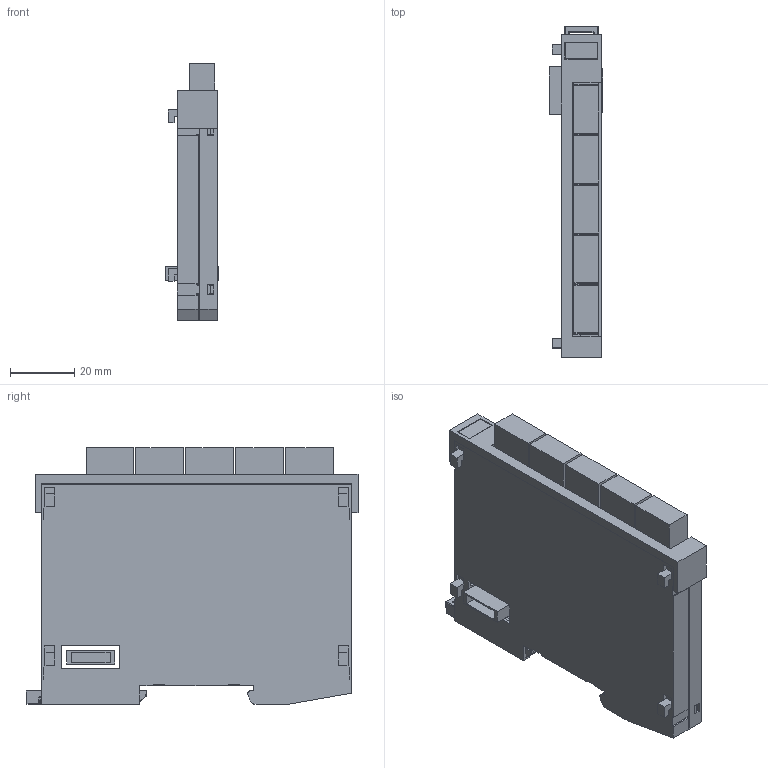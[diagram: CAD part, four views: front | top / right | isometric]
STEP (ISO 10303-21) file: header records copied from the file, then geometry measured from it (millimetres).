
FILE_DESCRIPTION (( 'STEP AP214' ), '1' );
FILE_NAME ('DI202.STEP', '2016-01-22T06:44:01', ( 'SIGMATEK GmbH & Co KG' ), ( 'SIGMATEK GmbH & Co KG' ), 'SwSTEP 2.0', 'SolidWorks 2015', '' );
FILE_SCHEMA (( 'AUTOMOTIVE_DESIGN' ));
Length unit declared in the file: millimetre
Products named in the file (11): LP_DI202; Dummy_4110262104 4pol.Federkraftstecker f.2reih 1952283; Dummy_4110251205 4pol.Minicombicon-Grundgehäuse RM3,5 1937512; Dummy_4080225346 Erni Stift; Dummy_4080225345 Erni Buchse; S-Dias Rasthaken 20130313; Schieber_f Suport; S-Dias Schale rechts_f Suport; S-Dias Schale links_f Suport; 4110251342_MF 10-5 MC CABUR_1854510000; DI202
Assembly tree (18 placements, depth 3):
  DI202
    4110251342_MF 10-5 MC CABUR_1854510000
    S-Dias Schale links_f Suport
    S-Dias Schale rechts_f Suport
    Schieber_f Suport
    S-Dias Rasthaken 20130313
    LP_DI202
      Dummy_4080225345 Erni Buchse
      Dummy_4080225346 Erni Stift
      Dummy_4110251205 4pol.Minicombicon-Grundgehäuse RM3,5 1937512  x5
      Dummy_4110262104 4pol.Federkraftstecker f.2reih 1952283  x5
Bounding box: 16.8 x 103.61 x 80.15 mm (x, y, z)
Volume: 34930.7 mm3; surface area: 46586.8 mm2
Topology: 17 solids, 17 shells, 817 faces, 2353 edges, 1558 vertices
Faces by surface type: plane 578, cylinder 128, bspline 55, cone 28, torus 15, sphere 13
Entity records: 30075 total; most frequent: CARTESIAN_POINT 7179, ORIENTED_EDGE 4424, DIRECTION 3449, EDGE_CURVE 2212, VECTOR 1563, LINE 1563, VERTEX_POINT 1470, AXIS2_PLACEMENT_3D 943
